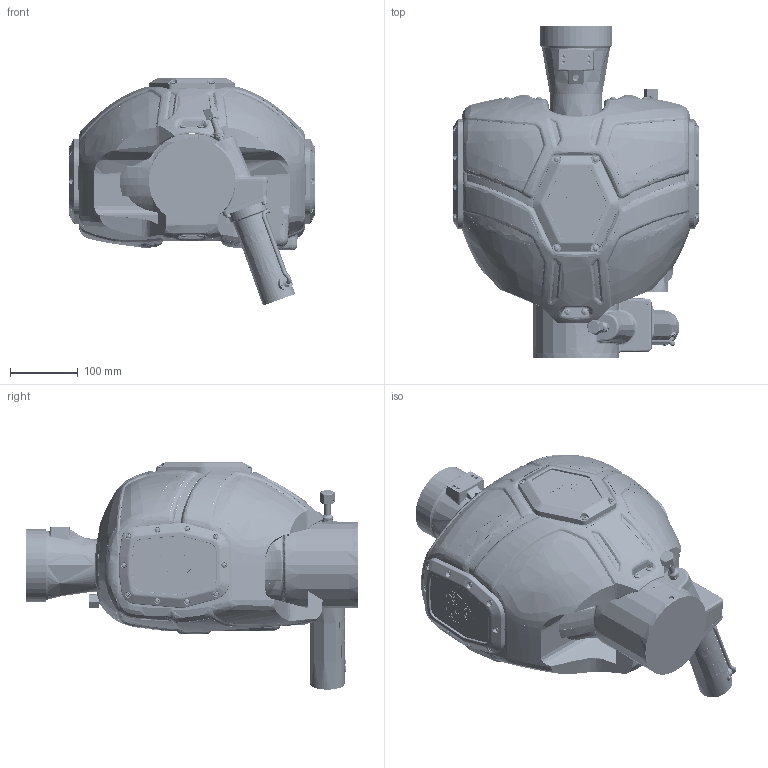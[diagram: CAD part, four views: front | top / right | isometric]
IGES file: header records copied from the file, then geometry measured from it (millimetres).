
Start section: SolidWorks IGES file using analytic representation for surfaces
Global section: file name: C:\Users\kprahl\Desktop\CobraMax Models for Website\CobraMax IGES Files\CobraMax 7250HDX2.IGS; native system: SolidWorks 2019; preprocessor: SolidWorks 2019; author: kprahl; date: 210412.170528; units: inch
Bounding box: 364.78 x 490.31 x 335.8 mm (x, y, z)
Surface area: 1371630.9 mm2 (no closed solid volume)
Topology: 0 solids, 0 shells, 8812 faces, 130743 edges, 130561 vertices
Faces by surface type: revolution 4532, bspline 4280
